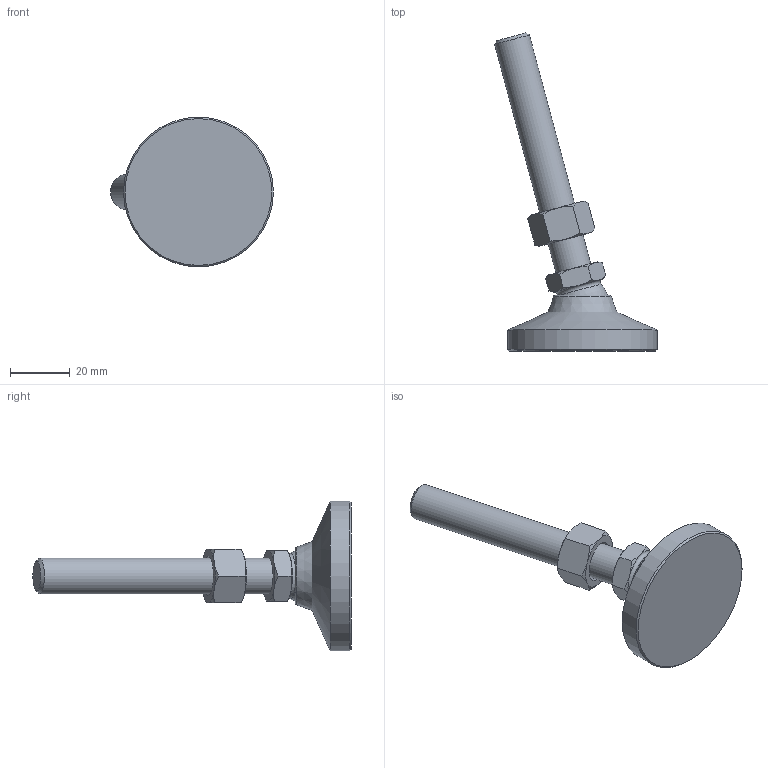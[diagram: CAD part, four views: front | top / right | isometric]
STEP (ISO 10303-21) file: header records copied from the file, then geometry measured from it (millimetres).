
FILE_DESCRIPTION( ( 'STEP AP214' ), ' ' );
FILE_NAME( 'O:/ganter_2015/teil_2/2_5/gn343_2/gn343_2_os/Levelling foot with threaded stud GN 343.2-50-M12-80-OS-(15).stp', '2015-10-26T09:08:05', ( '' ), ( '' ), ' ', 'PARTsolutions', ' ' );
FILE_SCHEMA( ( 'AUTOMOTIVE_DESIGN { 1 0 10303 214 1 1 1 1 }' ) );
Length unit declared in the file: millimetre
Products named in the file (4): Levelling foot with threaded stud GN 343.2-50-M12-80-OS-(15); _Levelling foot with threaded stud GN 343.2-50-M12-80-OS-(15)_foot; _Levelling foot with threaded stud GN 343.2-50-M12-80-OS-(15)_screw; _Stainless Steel-Levelling feet GN 343.2-50-M12-80-OS-(15)_nut
Assembly tree (3 placements, depth 2):
  Levelling foot with threaded stud GN 343.2-50-M12-80-OS-(15)
    _Levelling foot with threaded stud GN 343.2-50-M12-80-OS-(15)_foot
    _Levelling foot with threaded stud GN 343.2-50-M12-80-OS-(15)_screw
    _Stainless Steel-Levelling feet GN 343.2-50-M12-80-OS-(15)_nut
Bounding box: 54.29 x 106.17 x 50 mm (x, y, z)
Volume: 35514.3 mm3; surface area: 11532.1 mm2
Topology: 3 solids, 3 shells, 55 faces, 116 edges, 67 vertices
Faces by surface type: cone 30, plane 18, cylinder 3, torus 2, sphere 2
Full cylindrical faces by diameter (mm): 10.106 x1, 12 x1, 50 x1
Entity records: 2038 total; most frequent: CARTESIAN_POINT 495, DIRECTION 208, ORIENTED_EDGE 198, EDGE_CURVE 99, AXIS2_PLACEMENT_3D 98, EDGE_LOOP 70, VERTEX_POINT 65, FACE_OUTER_BOUND 60
